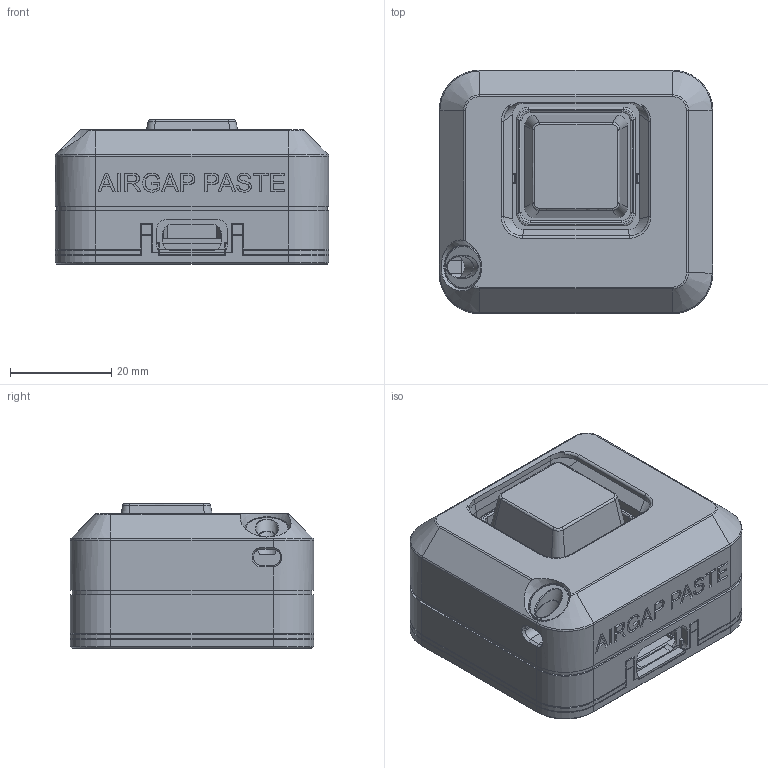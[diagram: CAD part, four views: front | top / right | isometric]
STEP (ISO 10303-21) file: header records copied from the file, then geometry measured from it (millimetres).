
FILE_DESCRIPTION(('Open CASCADE Model'),'2;1');
FILE_NAME('Open CASCADE Shape Model','2026-10-07T16:40:48',('Author'),( 'Open CASCADE'),'Open CASCADE STEP processor 7.9','Open CASCADE 7.9' ,'Unknown');
FILE_SCHEMA(('AUTOMOTIVE_DESIGN { 1 0 10303 214 1 1 1 1 }'));
Length unit declared in the file: millimetre
Products named in the file (11): AirGap_Paste_Pocket_Recess; 12_seam_trim; 01_shell; 02_base; 03_keycap; 04_halo; 09_eye_bushing; 05_mx_plate; 07_xiao_wedge; 06_lightguide_left; 06_lightguide_right
Assembly tree (10 placements, depth 2):
  AirGap_Paste_Pocket_Recess
    12_seam_trim
    01_shell
    02_base
    03_keycap
    04_halo
    09_eye_bushing
    05_mx_plate
    07_xiao_wedge
    06_lightguide_left
    06_lightguide_right
Bounding box: 54 x 48 x 28.6 mm (x, y, z)
Volume: 30950.9 mm3; surface area: 30912.4 mm2
Topology: 10 solids, 10 shells, 958 faces, 2574 edges, 1668 vertices
Faces by surface type: plane 575, cylinder 136, bspline 103, extrusion 100, torus 25, cone 19
Full cylindrical faces by diameter (mm): 3.4 x6, 4.4 x2, 5.3 x1, 8.4 x1, 8.7 x1
Entity records: 66466 total; most frequent: CARTESIAN_POINT 19032, DIRECTION 7196, ORIENTED_EDGE 5148, PCURVE 5148, DEFINITIONAL_REPRESENTATION 5148, VECTOR 4815, LINE 4715, EDGE_CURVE 2574
